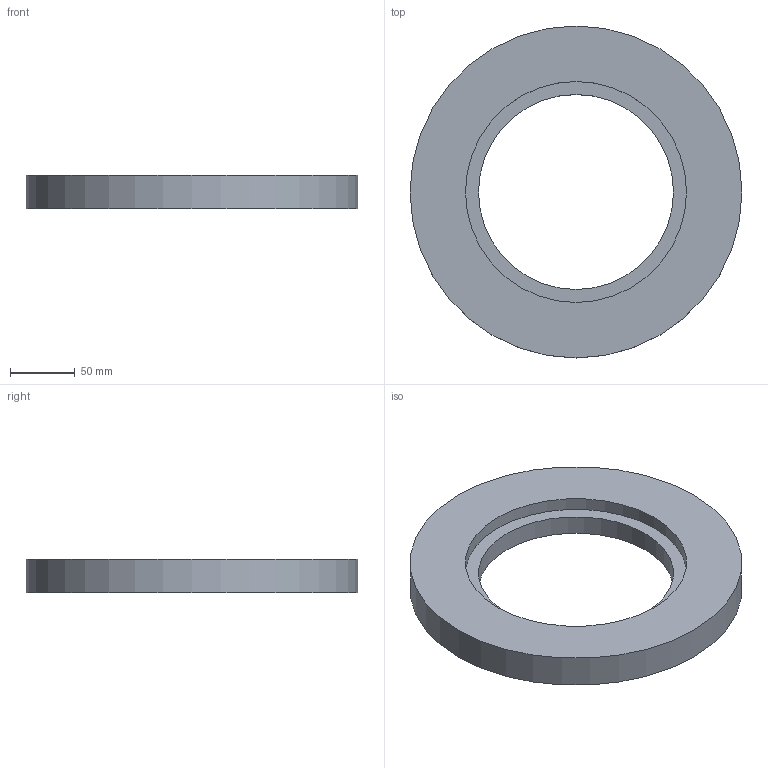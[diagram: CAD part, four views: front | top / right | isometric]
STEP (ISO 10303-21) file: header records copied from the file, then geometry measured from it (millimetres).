
FILE_DESCRIPTION( ( 'Unknown' ), '1' );
FILE_NAME( 'C:/Users/work/Documents/Solid Edge/heavy_gas_cherenkov/step/quartz_holder.step', 'Unknown', ( 'Unknown' ), ( 'Unknown' ), 'PSStep 10.1', 'Unknown', ' ' );
FILE_SCHEMA( ( 'AUTOMOTIVE_DESIGN { 1 0 10303 214 1 1 1 1 }' ) );
Length unit declared in the file: millimetre
Products named in the file (1): 1
Bounding box: 255.4 x 255.4 x 25.4 mm (x, y, z)
Volume: 802143.4 mm3; surface area: 100096.6 mm2
Topology: 1 solids, 1 shells, 6 faces, 9 edges, 6 vertices
Faces by surface type: plane 3, cylinder 3
Full cylindrical faces by diameter (mm): 150 x1, 170 x1, 255.4 x1
Entity records: 192 total; most frequent: DIRECTION 26, CARTESIAN_POINT 19, AXIS2_PLACEMENT_3D 13, EDGE_LOOP 12, ORIENTED_EDGE 12, FACE_OUTER_BOUND 9, STYLED_ITEM 6, PRESENTATION_STYLE_ASSIGNMENT 6
